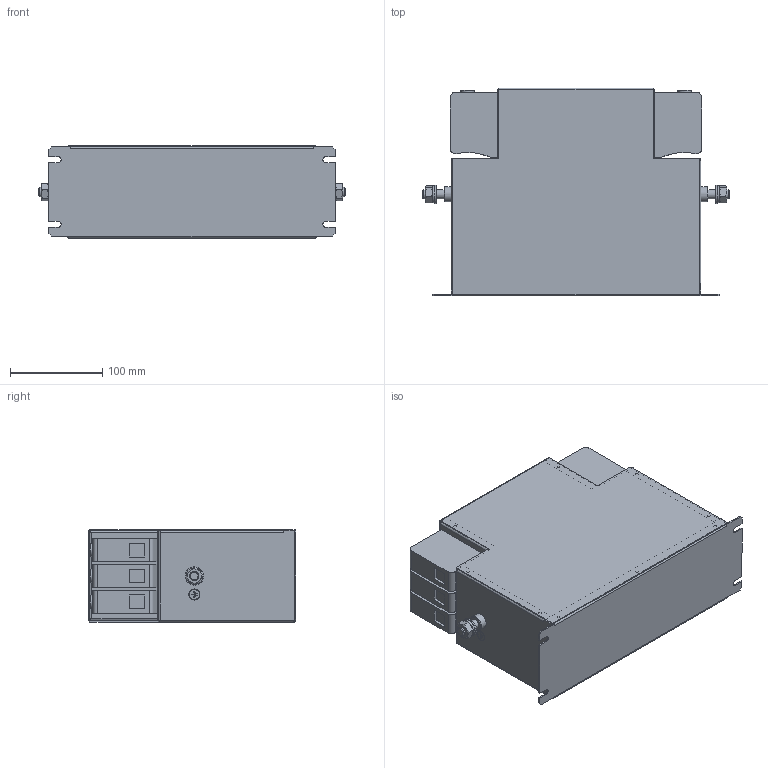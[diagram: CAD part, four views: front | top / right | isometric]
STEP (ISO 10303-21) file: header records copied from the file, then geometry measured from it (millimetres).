
FILE_DESCRIPTION(/* description */ ('raw material description'),/* implementation_level */ '2;1');
FILE_NAME(/* name */ 'C:\Users\Oliver.Volic\OneDrive - Schaffner EMV AG\Projekte\STEP\Wanda\FN3288-160-40.stp',/* time_stamp */ '2018-07-02T10:18:10+02:00',/* author */ ('Oliver.Volic'),/* organization */ ('Schaffner EMV AG'),/* preprocessor_version */ 'ST-DEVELOPER v16.5',/* originating_system */ 'Autodesk Inventor 2017',/* authorisation */ '');
FILE_SCHEMA (('AUTOMOTIVE_DESIGN { 1 0 10303 214 3 1 1 }'));
Length unit declared in the file: millimetre
Products named in the file (1): FN3288-160-40.
Bounding box: 332.6 x 225.05 x 100 mm (x, y, z)
Volume: 796775.7 mm3; surface area: 479009 mm2
Topology: 1 solids, 1 shells, 604 faces, 1458 edges, 902 vertices
Faces by surface type: plane 439, cylinder 117, cone 24, bspline 24
Full cylindrical faces by diameter (mm): 3 x6, 3.3 x13, 4.82 x4, 9.188 x2, 10 x4, 10.5 x2, 11 x2, 12 x2, 12.7 x2, 14.5 x6, 15.4 x2, 16.5 x2, 20 x2
Entity records: 17930 total; most frequent: CARTESIAN_POINT 3669, ORIENTED_EDGE 2782, DIRECTION 2724, EDGE_CURVE 1383, LINE 1012, VECTOR 1012, VERTEX_POINT 888, AXIS2_PLACEMENT_3D 856
